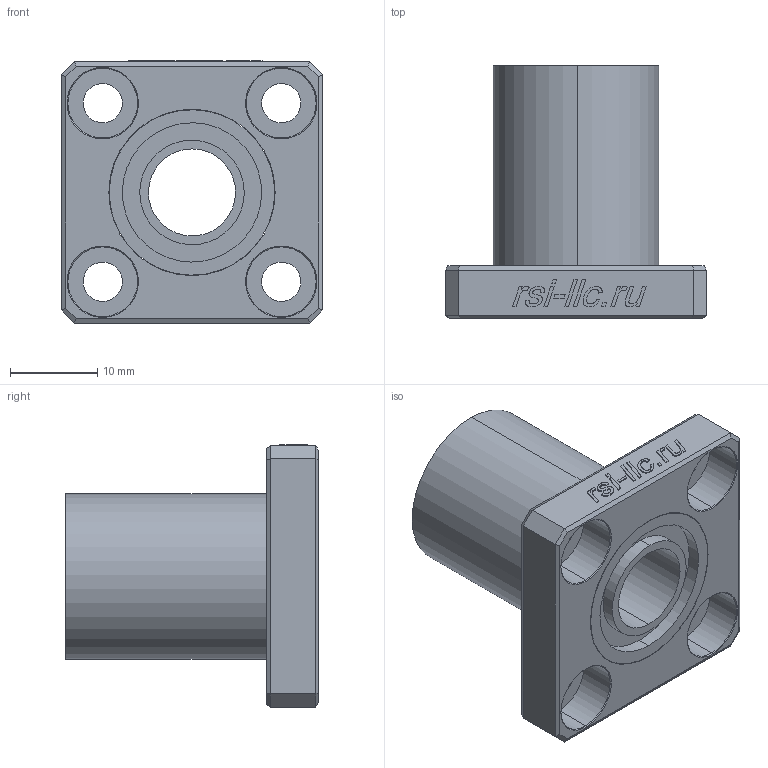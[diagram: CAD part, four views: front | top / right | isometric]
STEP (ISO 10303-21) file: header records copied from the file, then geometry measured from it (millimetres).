
FILE_DESCRIPTION (( 'STEP AP214' ), '1' );
FILE_NAME ('LMK10UU.STEP', '2020-12-11T11:23:07', ( '' ), ( '' ), 'SwSTEP 2.0', 'SolidWorks 2018', '' );
FILE_SCHEMA (( 'AUTOMOTIVE_DESIGN' ));
Length unit declared in the file: millimetre
Products named in the file (3): LMK10UU Part2; LMK10UU Part1; LMK10UU
Assembly tree (2 placements, depth 2):
  LMK10UU
    LMK10UU Part1
    LMK10UU Part2
Bounding box: 30 x 29 x 30.1 mm (x, y, z)
Volume: 8301.8 mm3; surface area: 5879.9 mm2
Topology: 13 solids, 13 shells, 189 faces, 431 edges, 276 vertices
Faces by surface type: plane 109, bspline 32, cylinder 30, cone 18
Entity records: 8577 total; most frequent: CARTESIAN_POINT 2885, ORIENTED_EDGE 862, DIRECTION 769, EDGE_CURVE 431, VECTOR 289, LINE 289, VERTEX_POINT 276, AXIS2_PLACEMENT_3D 240
